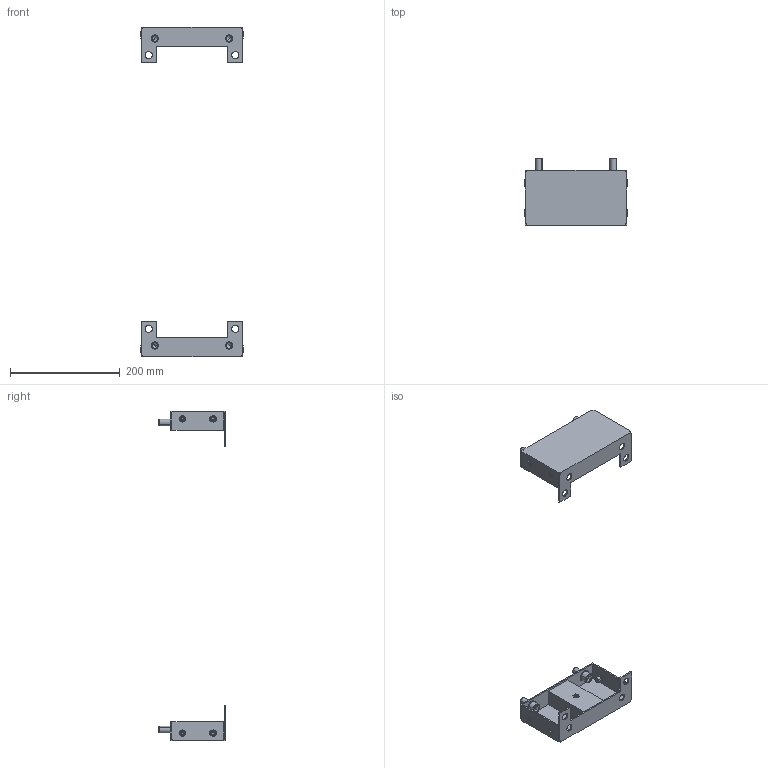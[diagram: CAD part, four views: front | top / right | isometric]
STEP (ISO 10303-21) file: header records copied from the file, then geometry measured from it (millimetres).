
FILE_DESCRIPTION (( 'STEP AP203' ), '1' );
FILE_NAME ('R6PLB25 H=600.STEP', '2025-05-16T11:38:58', ( '' ), ( '' ), 'SwSTEP 2.0', 'SolidWorks 2022', '' );
FILE_SCHEMA (( 'CONFIG_CONTROL_DESIGN' ));
Length unit declared in the file: millimetre
Products named in the file (7): 12 DIN 6798 A Zinc; RB.3309.00.00.0 СБ simple; R6PLB25 H=600; M6 MGS-MPO-0635_straight; RB.3309.00.02.0 simple; M12x25 DIN 912 HX cl.8,8 Zinc_stright; RB.3309.00.01.0 simple
Assembly tree (17 placements, depth 3):
  R6PLB25 H=600
    RB.3309.00.00.0 СБ simple  x2
      RB.3309.00.01.0 simple
      M6 MGS-MPO-0635_straight
      RB.3309.00.02.0 simple
    12 DIN 6798 A Zinc  x4
    M12x25 DIN 912 HX cl.8,8 Zinc_stright  x4
Bounding box: 186.7 x 121.5 x 600 mm (x, y, z)
Volume: 261997.6 mm3; surface area: 216610.9 mm2
Topology: 22 solids, 22 shells, 1220 faces, 3192 edges, 1808 vertices
Faces by surface type: plane 548, cylinder 356, bspline 144, sphere 120, cone 36, torus 16
Entity records: 10115 total; most frequent: CARTESIAN_POINT 2745, ORIENTED_EDGE 1384, DIRECTION 1192, EDGE_CURVE 692, VECTOR 444, LINE 444, VERTEX_POINT 443, AXIS2_PLACEMENT_3D 374
